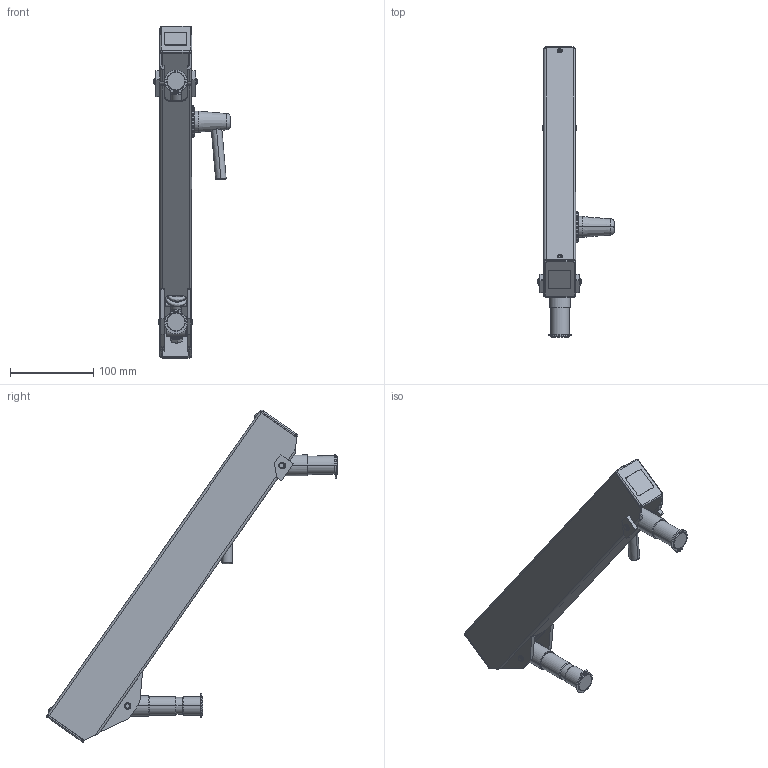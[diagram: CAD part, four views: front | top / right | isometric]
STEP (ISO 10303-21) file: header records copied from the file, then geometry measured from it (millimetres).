
FILE_DESCRIPTION (( 'STEP AP203' ), '1' );
FILE_NAME ('70-1321-00 REV AA, FLEX SECTION, 13.5in, 4-21 LB - DOWN.STEP', '2025-07-09T23:34:01', ( '' ), ( '' ), 'SwSTEP 2.0', 'SolidWorks 2025', '' );
FILE_SCHEMA (( 'CONFIG_CONTROL_DESIGN' ));
Length unit declared in the file: inch
Products named in the file (32): 71-1033-RX REV AA, BOLT, ADJUSTING, 10.9; 71-0972-99 REV AA, END CAP, FLEX; 71-0028-RX REV AA, TAB, MOUNT_MACHINE; 71-0031-RX REV AA, KNUCKLE, MOUNT_MACHINE; 71-0040-RX REV AA, BRAKE BLOCK, WIDE_MACHINE; 010-012-00, RETAINING RING, EXTERNAL, .875in SHAFT; 011-033-00; 11-0601-99 REV AA, CONICAL KNOB, BRAKE ASSEMBLY; 004-050-00, WASHER, FIBER, .032 THK, .265ID; 11-0650-00 REV AA, BRAKE HANDLE ASSEMBLY; 71-0038-RX REV AA, PIVOT, KNUCKLE, ELECTROLESS NICKEL; 002-041-00_002-041-00; 010-011-00, RETAINING RING, EXT, .250 SHAFT_010-011-00; 71-1051-RX REV AA, SPRING BLOCK; 71-1301-BLKX REV AA, FLEX HOUSING, 13.5in, BLACK_Powder Coat; 71-1300-RX REV AA, HOUSING, 13.5in FLEX; 71-1032-RX REV AA, SPRING ROD, 13.5in FLEX; 011-020-00 REV AA, PIN, KNURLED, 1.0LG x .25OD; 005-084-00, BOLT, 1''4-20x2.75; 71-0070-RX REV AA, AXLE PIN, SHORT; 11-0602-RX REV AA, HANDLE, BRAKE ASSEMBLY; 004-144-00; 016-070-00, BEARING, PLASTIC, .5ID x .625 OD x .75; 70-1321-00 REV AA, FLEX SECTION, 13.5in, 4-21 LB - DOWN; 71-0037-RX REV AA, PIVOT, THREADED; 006-059-00; 006-004-00_006-004-00; 71-0030-RX REV AA, KNUCKLE, LOAD_MACHINE; 013-062-00, SPRING, RED, 1x8_ISO425203; 71-0071-RX REV AA, AXLE PIN, LONG; 11-0027-RX REV AA, PLASTIC DISC, BRAKE ASSEMBLY_MACHINE; 71-0029-RX REV AA, TAB, LOAD
Assembly tree (52 placements, depth 3):
  70-1321-00 REV AA, FLEX SECTION, 13.5in, 4-21 LB - DOWN
    71-0031-RX REV AA, KNUCKLE, MOUNT_MACHINE
    71-1032-RX REV AA, SPRING ROD, 13.5in FLEX
    71-0030-RX REV AA, KNUCKLE, LOAD_MACHINE
    71-0038-RX REV AA, PIVOT, KNUCKLE, ELECTROLESS NICKEL
    71-1033-RX REV AA, BOLT, ADJUSTING, 10.9
    71-0037-RX REV AA, PIVOT, THREADED
    71-0040-RX REV AA, BRAKE BLOCK, WIDE_MACHINE
    71-1051-RX REV AA, SPRING BLOCK
    71-0070-RX REV AA, AXLE PIN, SHORT
    11-0027-RX REV AA, PLASTIC DISC, BRAKE ASSEMBLY_MACHINE
    11-0650-00 REV AA, BRAKE HANDLE ASSEMBLY
      11-0601-99 REV AA, CONICAL KNOB, BRAKE ASSEMBLY
      11-0602-RX REV AA, HANDLE, BRAKE ASSEMBLY
      11-0027-RX REV AA, PLASTIC DISC, BRAKE ASSEMBLY_MACHINE
      005-084-00, BOLT, 1''4-20x2.75
    71-1301-BLKX REV AA, FLEX HOUSING, 13.5in, BLACK_Powder Coat
      71-1300-RX REV AA, HOUSING, 13.5in FLEX
      71-0029-RX REV AA, TAB, LOAD  x2
      71-0028-RX REV AA, TAB, MOUNT_MACHINE  x2
    71-0071-RX REV AA, AXLE PIN, LONG
    010-011-00, RETAINING RING, EXT, .250 SHAFT_010-011-00  x4
    71-0972-99 REV AA, END CAP, FLEX  x2
    006-004-00_006-004-00  x2
    002-041-00_002-041-00  x2
    010-012-00, RETAINING RING, EXTERNAL, .875in SHAFT  x2
    011-033-00
    004-050-00, WASHER, FIBER, .032 THK, .265ID  x8
    011-020-00 REV AA, PIN, KNURLED, 1.0LG x .25OD  x2
    004-144-00  x3
    006-059-00
    013-062-00, SPRING, RED, 1x8_ISO425203
    016-070-00, BEARING, PLASTIC, .5ID x .625 OD x .75  x2
Bounding box: 92.23 x 349.23 x 399.04 mm (x, y, z)
Volume: 476674 mm3; surface area: 308124.4 mm2
Topology: 52 solids, 52 shells, 1067 faces, 2610 edges, 1642 vertices
Faces by surface type: cylinder 445, plane 371, cone 176, torus 45, bspline 24, sphere 6
Entity records: 61097 total; most frequent: CARTESIAN_POINT 39917, ORIENTED_EDGE 3614, DIRECTION 3578, EDGE_CURVE 1807, AXIS2_PLACEMENT_3D 1364, VERTEX_POINT 1136, VECTOR 850, LINE 850
